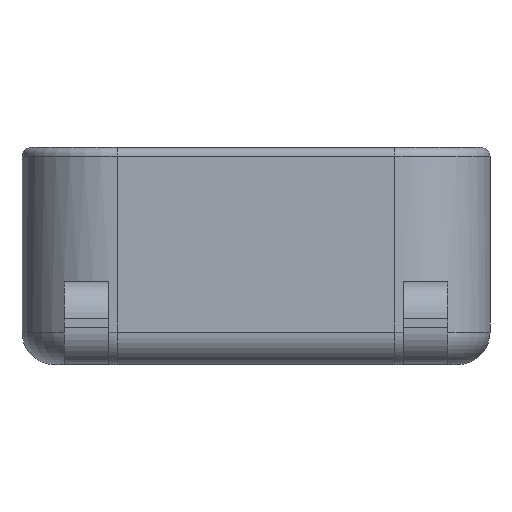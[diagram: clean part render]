
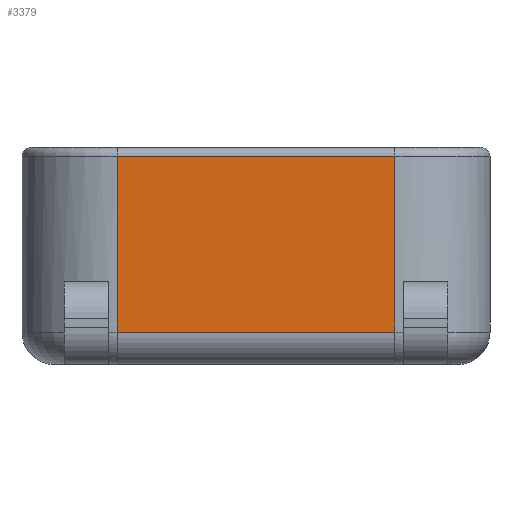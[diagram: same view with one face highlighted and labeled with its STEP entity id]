
A CAD part, left-side view. The second image highlights one B-rep face of the part: STEP entity #3379.
In plain terms, the highlighted planar face has unit normal (-1, 0, 0).
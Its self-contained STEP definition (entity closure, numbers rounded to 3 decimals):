
#44 = CYLINDRICAL_SURFACE('',#45,6.45);
#45 = AXIS2_PLACEMENT_3D('',#46,#47,#48);
#46 = CARTESIAN_POINT('',(3.4,3.4,-2.2));
#47 = DIRECTION('',(0.,0.,1.));
#48 = DIRECTION('',(0.,-1.,0.));
#2567 = CYLINDRICAL_SURFACE('',#2568,2.2);
#2568 = AXIS2_PLACEMENT_3D('',#2569,#2570,#2571);
#2569 = CARTESIAN_POINT('',(-0.85,22.2,0.));
#2570 = DIRECTION('',(0.,-1.,0.));
#2571 = DIRECTION('',(-1.,-0.,0.));
#3282 = VERTEX_POINT('',#3283);
#3283 = CARTESIAN_POINT('',(-3.05,3.4,0.));
#3331 = VERTEX_POINT('',#3332);
#3332 = CARTESIAN_POINT('',(-3.05,22.2,0.));
#3354 = EDGE_CURVE('',#3331,#3282,#3355,.T.);
#3355 = SURFACE_CURVE('',#3356,(#3360,#3367),.PCURVE_S1.);
#3356 = LINE('',#3357,#3358);
#3357 = CARTESIAN_POINT('',(-3.05,22.2,0.));
#3358 = VECTOR('',#3359,1.);
#3359 = DIRECTION('',(0.,-1.,0.));
#3360 = PCURVE('',#2567,#3361);
#3361 = DEFINITIONAL_REPRESENTATION('',(#3362),#3366);
#3362 = LINE('',#3363,#3364);
#3363 = CARTESIAN_POINT('',(0.,0.));
#3364 = VECTOR('',#3365,1.);
#3365 = DIRECTION('',(0.,1.));
#3366 = ( GEOMETRIC_REPRESENTATION_CONTEXT(2) 
PARAMETRIC_REPRESENTATION_CONTEXT() REPRESENTATION_CONTEXT('2D SPACE',''
  ) );
#3367 = PCURVE('',#3368,#3373);
#3368 = PLANE('',#3369);
#3369 = AXIS2_PLACEMENT_3D('',#3370,#3371,#3372);
#3370 = CARTESIAN_POINT('',(-3.05,28.65,-2.2));
#3371 = DIRECTION('',(1.,0.,-0.));
#3372 = DIRECTION('',(0.,-1.,0.));
#3373 = DEFINITIONAL_REPRESENTATION('',(#3374),#3378);
#3374 = LINE('',#3375,#3376);
#3375 = CARTESIAN_POINT('',(6.45,-2.2));
#3376 = VECTOR('',#3377,1.);
#3377 = DIRECTION('',(1.,0.));
#3378 = ( GEOMETRIC_REPRESENTATION_CONTEXT(2) 
PARAMETRIC_REPRESENTATION_CONTEXT() REPRESENTATION_CONTEXT('2D SPACE',''
  ) );
#3379 = ADVANCED_FACE('',(#3380),#3368,.F.);
#3380 = FACE_BOUND('',#3381,.F.);
#3381 = EDGE_LOOP('',(#3382,#3410,#3438,#3459));
#3382 = ORIENTED_EDGE('',*,*,#3383,.T.);
#3383 = EDGE_CURVE('',#3331,#3384,#3386,.T.);
#3384 = VERTEX_POINT('',#3385);
#3385 = CARTESIAN_POINT('',(-3.05,22.2,11.9));
#3386 = SURFACE_CURVE('',#3387,(#3391,#3398),.PCURVE_S1.);
#3387 = LINE('',#3388,#3389);
#3388 = CARTESIAN_POINT('',(-3.05,22.2,-2.2));
#3389 = VECTOR('',#3390,1.);
#3390 = DIRECTION('',(0.,0.,1.));
#3391 = PCURVE('',#3368,#3392);
#3392 = DEFINITIONAL_REPRESENTATION('',(#3393),#3397);
#3393 = LINE('',#3394,#3395);
#3394 = CARTESIAN_POINT('',(6.45,0.));
#3395 = VECTOR('',#3396,1.);
#3396 = DIRECTION('',(0.,-1.));
#3397 = ( GEOMETRIC_REPRESENTATION_CONTEXT(2) 
PARAMETRIC_REPRESENTATION_CONTEXT() REPRESENTATION_CONTEXT('2D SPACE',''
  ) );
#3398 = PCURVE('',#3399,#3404);
#3399 = CYLINDRICAL_SURFACE('',#3400,6.45);
#3400 = AXIS2_PLACEMENT_3D('',#3401,#3402,#3403);
#3401 = CARTESIAN_POINT('',(3.4,22.2,-2.2));
#3402 = DIRECTION('',(0.,0.,1.));
#3403 = DIRECTION('',(-0.,1.,0.));
#3404 = DEFINITIONAL_REPRESENTATION('',(#3405),#3409);
#3405 = LINE('',#3406,#3407);
#3406 = CARTESIAN_POINT('',(1.571,0.));
#3407 = VECTOR('',#3408,1.);
#3408 = DIRECTION('',(0.,1.));
#3409 = ( GEOMETRIC_REPRESENTATION_CONTEXT(2) 
PARAMETRIC_REPRESENTATION_CONTEXT() REPRESENTATION_CONTEXT('2D SPACE',''
  ) );
#3410 = ORIENTED_EDGE('',*,*,#3411,.T.);
#3411 = EDGE_CURVE('',#3384,#3412,#3414,.T.);
#3412 = VERTEX_POINT('',#3413);
#3413 = CARTESIAN_POINT('',(-3.05,3.4,11.9));
#3414 = SURFACE_CURVE('',#3415,(#3419,#3426),.PCURVE_S1.);
#3415 = LINE('',#3416,#3417);
#3416 = CARTESIAN_POINT('',(-3.05,22.2,11.9));
#3417 = VECTOR('',#3418,1.);
#3418 = DIRECTION('',(0.,-1.,0.));
#3419 = PCURVE('',#3368,#3420);
#3420 = DEFINITIONAL_REPRESENTATION('',(#3421),#3425);
#3421 = LINE('',#3422,#3423);
#3422 = CARTESIAN_POINT('',(6.45,-14.1));
#3423 = VECTOR('',#3424,1.);
#3424 = DIRECTION('',(1.,0.));
#3425 = ( GEOMETRIC_REPRESENTATION_CONTEXT(2) 
PARAMETRIC_REPRESENTATION_CONTEXT() REPRESENTATION_CONTEXT('2D SPACE',''
  ) );
#3426 = PCURVE('',#3427,#3432);
#3427 = CYLINDRICAL_SURFACE('',#3428,0.6);
#3428 = AXIS2_PLACEMENT_3D('',#3429,#3430,#3431);
#3429 = CARTESIAN_POINT('',(-2.45,22.2,11.9));
#3430 = DIRECTION('',(0.,-1.,0.));
#3431 = DIRECTION('',(-1.,-0.,0.));
#3432 = DEFINITIONAL_REPRESENTATION('',(#3433),#3437);
#3433 = LINE('',#3434,#3435);
#3434 = CARTESIAN_POINT('',(-0.,0.));
#3435 = VECTOR('',#3436,1.);
#3436 = DIRECTION('',(-0.,1.));
#3437 = ( GEOMETRIC_REPRESENTATION_CONTEXT(2) 
PARAMETRIC_REPRESENTATION_CONTEXT() REPRESENTATION_CONTEXT('2D SPACE',''
  ) );
#3438 = ORIENTED_EDGE('',*,*,#3439,.F.);
#3439 = EDGE_CURVE('',#3282,#3412,#3440,.T.);
#3440 = SURFACE_CURVE('',#3441,(#3445,#3452),.PCURVE_S1.);
#3441 = LINE('',#3442,#3443);
#3442 = CARTESIAN_POINT('',(-3.05,3.4,-2.2));
#3443 = VECTOR('',#3444,1.);
#3444 = DIRECTION('',(0.,0.,1.));
#3445 = PCURVE('',#3368,#3446);
#3446 = DEFINITIONAL_REPRESENTATION('',(#3447),#3451);
#3447 = LINE('',#3448,#3449);
#3448 = CARTESIAN_POINT('',(25.25,0.));
#3449 = VECTOR('',#3450,1.);
#3450 = DIRECTION('',(0.,-1.));
#3451 = ( GEOMETRIC_REPRESENTATION_CONTEXT(2) 
PARAMETRIC_REPRESENTATION_CONTEXT() REPRESENTATION_CONTEXT('2D SPACE',''
  ) );
#3452 = PCURVE('',#44,#3453);
#3453 = DEFINITIONAL_REPRESENTATION('',(#3454),#3458);
#3454 = LINE('',#3455,#3456);
#3455 = CARTESIAN_POINT('',(-1.571,0.));
#3456 = VECTOR('',#3457,1.);
#3457 = DIRECTION('',(-0.,1.));
#3458 = ( GEOMETRIC_REPRESENTATION_CONTEXT(2) 
PARAMETRIC_REPRESENTATION_CONTEXT() REPRESENTATION_CONTEXT('2D SPACE',''
  ) );
#3459 = ORIENTED_EDGE('',*,*,#3354,.F.);
